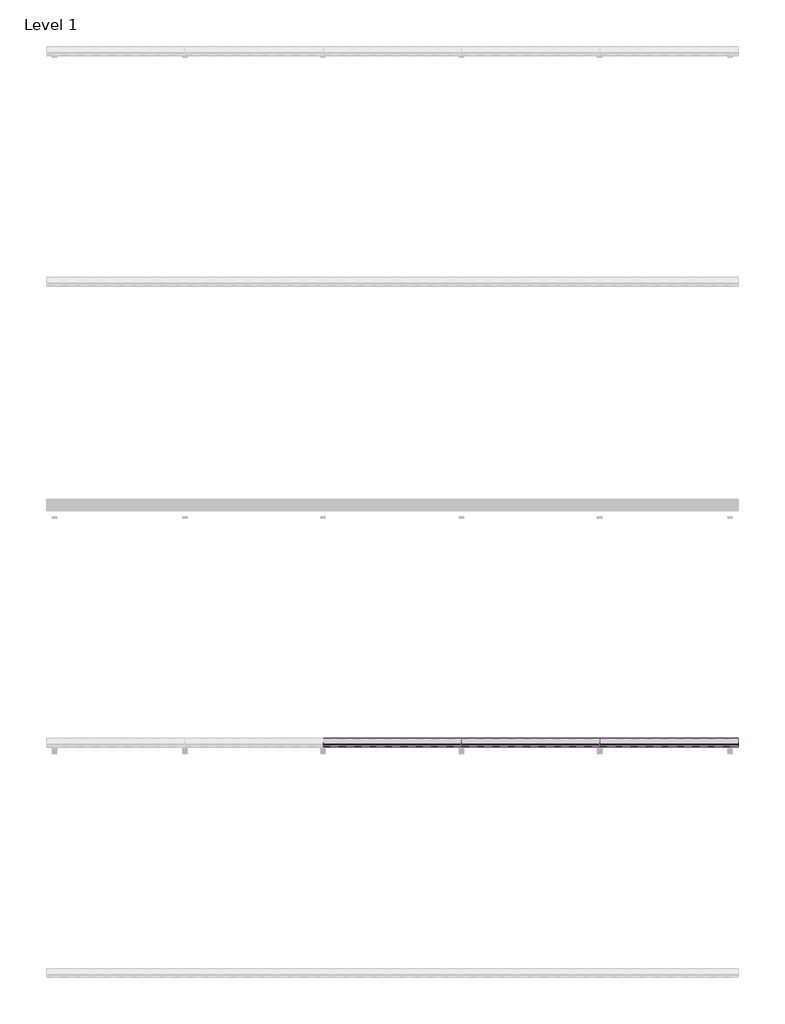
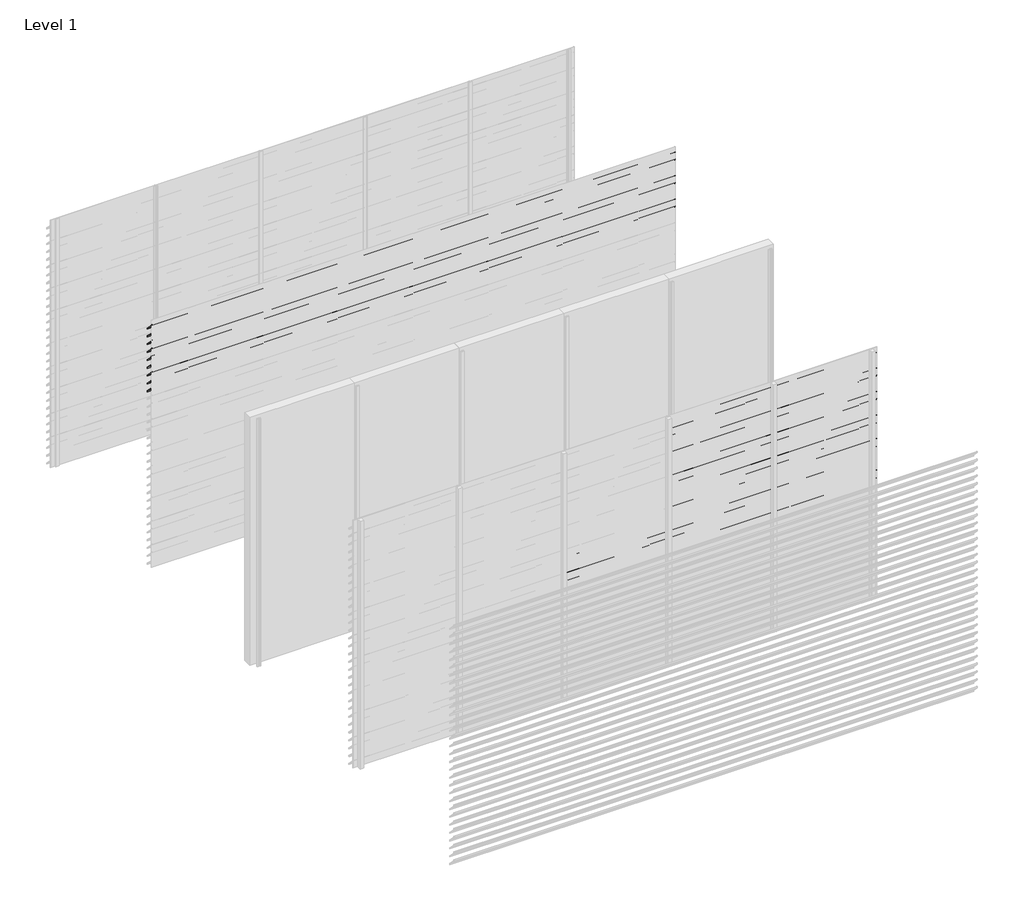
# One storey, part 13 of 24: 89 proxies.
"""IFC4 building model written with IfcOpenShell, lengths in millimetres."""

import ifcopenshell
import ifcopenshell.guid

model = None  # the IFC model being written
_history = None  # IfcOwnerHistory: only IFC2X3 demands one
_inside = {}  # id of a spatial element -> (the spatial element, [elements in it])
_under = {}  # id of a project, library or spatial element -> (it, [spatial elements below it])
_declared = {}  # id of a project -> (the project, [libraries it declares])
_typed = {}  # id of a type object -> (the type object, [elements of that type])
_made_of = {}  # id of a material, layer set ... -> (it, [elements and type objects made of it])


def new_model(schema):
    """Start an empty IFC model of exactly this schema.

    Asked for "IFC4X3", IfcOpenShell would pick the latest addendum, in which some entities
    have other attributes; the version numbers below select the first issue.
    IFC2X3 requires an IfcOwnerHistory on every rooted entity: one is made here for all.
    """
    global model, _history
    if schema == "IFC4X3":
        model = ifcopenshell.file(schema_version=(4, 3, 0, 0))
    else:
        model = ifcopenshell.file(schema=schema)
    _inside.clear()
    _under.clear()
    _declared.clear()
    _typed.clear()
    _made_of.clear()
    _history = None
    if model.schema == "IFC2X3":
        org = make("IfcOrganization", Name="unknown")
        user = make(
            "IfcPersonAndOrganization",
            ThePerson=make("IfcPerson", FamilyName="unknown"),
            TheOrganization=org,
        )
        app = make(
            "IfcApplication",
            ApplicationDeveloper=org,
            Version="unknown",
            ApplicationFullName="unknown",
            ApplicationIdentifier="unknown",
        )
        _history = make(
            "IfcOwnerHistory",
            OwningUser=user,
            OwningApplication=app,
            ChangeAction="ADDED",
            CreationDate=0,
        )
    return model


def make(cls, **values):
    """One entity of the class cls with the attributes given. An attribute that is None is left unset."""
    return model.create_entity(
        cls, **{name: value for name, value in values.items() if value is not None}
    )


def rooted(cls, **values):
    """An entity with a GlobalId (a new one), such as an element, a storey or a relation."""
    return make(cls, GlobalId=ifcopenshell.guid.new(), OwnerHistory=_history, **values)


def si_unit(unit_type, name, prefix=None):
    """IfcSIUnit, for example si_unit("LENGTHUNIT", "METRE", prefix="MILLI")."""
    return make("IfcSIUnit", UnitType=unit_type, Prefix=prefix, Name=name)


def assignment(units):
    """IfcUnitAssignment: the units of a project."""
    return None if units is None else make("IfcUnitAssignment", Units=units)


def point(xyz):
    """IfcCartesianPoint."""
    return None if xyz is None else make("IfcCartesianPoint", Coordinates=xyz)


def direction(xyz):
    """IfcDirection."""
    return None if xyz is None else make("IfcDirection", DirectionRatios=xyz)


def frame(location, z_axis=None, x_axis=None):
    """IfcAxis2Placement3D, a coordinate frame: its origin and axes. An axis left out is left unset."""
    return make(
        "IfcAxis2Placement3D",
        Location=point(location),
        Axis=direction(z_axis),
        RefDirection=direction(x_axis),
    )


def origin():
    """The frame at (0, 0, 0) with its axes left unset."""
    return frame((0.0, 0.0, 0.0))


def place(relative_to, where):
    """IfcLocalPlacement: puts the frame where relative to a parent placement (None: the world)."""
    return make(
        "IfcLocalPlacement", PlacementRelTo=relative_to, RelativePlacement=where
    )


def context(
    kind, dimensions, precision=None, world=None, true_north=None, identifier=None
):
    """IfcGeometricRepresentationContext, for example the 3D "Model" context."""
    return make(
        "IfcGeometricRepresentationContext",
        ContextIdentifier=identifier,
        ContextType=kind,
        CoordinateSpaceDimension=dimensions,
        Precision=precision,
        WorldCoordinateSystem=world,
        TrueNorth=true_north,
    )


def project(units=None, contexts=None):
    """IfcProject with its units and contexts."""
    return rooted(
        "IfcProject",
        Name="project",
        RepresentationContexts=contexts,
        UnitsInContext=assignment(units),
    )


def spatial(cls, under=None, at=None, **own):
    """A site, building, storey or space (cls), placed at a placement, below another one or the project."""
    s = rooted(cls, ObjectPlacement=at, **own)
    if under is not None:
        _under.setdefault(under.id(), (under, []))[1].append(s)
    return s


def polyline(points):
    """IfcPolyline through the points."""
    return make("IfcPolyline", Points=[point(p) for p in points])


def outline(outer, holes=None, kind="AREA"):
    """IfcArbitraryClosedProfileDef: a profile drawn as a closed curve; with holes, ...WithVoids."""
    if holes is None:
        return make("IfcArbitraryClosedProfileDef", ProfileType=kind, OuterCurve=outer)
    return make(
        "IfcArbitraryProfileDefWithVoids",
        ProfileType=kind,
        OuterCurve=outer,
        InnerCurves=holes,
    )


def extrude(swept, where, along, depth):
    """IfcExtrudedAreaSolid: the profile swept, set in the frame where, extruded along a direction by depth."""
    return make(
        "IfcExtrudedAreaSolid",
        SweptArea=swept,
        Position=where,
        ExtrudedDirection=direction(along),
        Depth=depth,
    )


def shape(context_of_items, identifier, shape_type, items):
    """IfcShapeRepresentation: the items that make up one representation, for example the "Body"."""
    return make(
        "IfcShapeRepresentation",
        ContextOfItems=context_of_items,
        RepresentationIdentifier=identifier,
        RepresentationType=shape_type,
        Items=items,
    )


def made_of(thing, what):
    """Note that an element or type object is made of a material, layer set ...; save() writes the relation."""
    if what is not None:
        _made_of.setdefault(what.id(), (what, []))[1].append(thing)
    return thing


def element(
    cls,
    number,
    at=None,
    inside=None,
    cuts=None,
    type_object=None,
    material=None,
    context=None,
    identifier="Body",
    shape_type=None,
    held_by="IfcProductDefinitionShape",
    body=None,
    shapes=None,
    **own,
):
    """One element of the class cls, such as IfcWall. Its Tag is "e" and its number.

    at: its placement. inside: the storey or other place that contains it. cuts: it is an
    opening in that element (IfcRelVoidsElement). A single representation is given by context,
    identifier, shape_type and body (its items); several are given by shapes. held_by: the class
    of the entity that holds the representations. save() writes the other relations.
    """
    e = rooted(cls, Tag="e%d" % number, ObjectPlacement=at, **own)
    if body is not None:
        shapes = [shape(context, identifier, shape_type, body)]
    if shapes is not None:
        e.Representation = make(held_by, Representations=shapes)
    if inside is not None:
        _inside.setdefault(inside.id(), (inside, []))[1].append(e)
    if cuts is not None:
        rooted(
            "IfcRelVoidsElement", RelatingBuildingElement=cuts, RelatedOpeningElement=e
        )
    if type_object is not None:
        _typed.setdefault(type_object.id(), (type_object, []))[1].append(e)
    return made_of(e, material)


def aggregate(whole, parts):
    """IfcRelAggregates: a whole, such as a stair, and the parts it consists of."""
    return rooted("IfcRelAggregates", RelatingObject=whole, RelatedObjects=parts)


def save(model, path):
    """Write the relations noted so far, then the file.

    IfcRelAggregates (storeys below a building ...), IfcRelContainedInSpatialStructure (elements
    in a storey), IfcRelDefinesByType, IfcRelAssociatesMaterial and IfcRelDeclares: one each for
    every whole, place, type object, material and project.
    """
    for whole, parts in _under.values():
        aggregate(whole, parts)
    for where, things in _inside.values():
        rooted(
            "IfcRelContainedInSpatialStructure",
            RelatedElements=things,
            RelatingStructure=where,
        )
    for kind, things in _typed.values():
        rooted("IfcRelDefinesByType", RelatedObjects=things, RelatingType=kind)
    for what, things in _made_of.values():
        rooted("IfcRelAssociatesMaterial", RelatedObjects=things, RelatingMaterial=what)
    for by, libraries in _declared.values():
        rooted("IfcRelDeclares", RelatingContext=by, RelatedDefinitions=libraries)
    model.write(path)


model = new_model("IFC4")

# Units and contexts
model_context = context("Model", 3, world=origin())
ifc_project = project(units=[si_unit("LENGTHUNIT", "METRE", prefix="MILLI")], contexts=[model_context])

# Site, building, storey
site = spatial("IfcSite", under=ifc_project)
building = spatial("IfcBuilding", under=site)
storey = spatial("IfcBuildingStorey", under=building, Name="Level 1", Elevation=0.0)

# Proxies
placement = place(None, origin())
element("IfcBuildingElementProxy", 1, Name="Wall Sweeps", at=placement, inside=storey, context=model_context, shape_type="SweptSolid", body=[
    extrude(outline(polyline([(-25920.8, 2842.9), (-25922.3, 2842.9), (-25922.3, 2855.1762333), (-25998.0, 2930.4561238), (-25998.0, 2945.0), (-25996.5, 2945.0), (-25996.5, 2931.0798905), (-25920.8, 2855.8), (-25920.8, 2842.9)])), frame((0.0, 0.0, 0.0), z_axis=(1.0, 0.0, 0.0), x_axis=(0.0, 1.0, 0.0)), (0.0, 0.0, 1.0), 6000.0),
])
element("IfcBuildingElementProxy", 2, Name="Wall Sweeps", at=placement, inside=storey, context=model_context, shape_type="SweptSolid", body=[
    extrude(outline(polyline([(-25920.8, 2747.9), (-25922.3, 2747.9), (-25922.3, 2760.1762333), (-25998.0, 2835.4561238), (-25998.0, 2850.0), (-25996.5, 2850.0), (-25996.5, 2836.0798905), (-25920.8, 2760.8), (-25920.8, 2747.9)])), frame((0.0, 0.0, 0.0), z_axis=(1.0, 0.0, 0.0), x_axis=(0.0, 1.0, 0.0)), (0.0, 0.0, 1.0), 6000.0),
])
element("IfcBuildingElementProxy", 3, Name="Wall Sweeps", at=placement, inside=storey, context=model_context, shape_type="SweptSolid", body=[
    extrude(outline(polyline([(-25920.8, 2652.9), (-25922.3, 2652.9), (-25922.3, 2665.1762333), (-25998.0, 2740.4561238), (-25998.0, 2755.0), (-25996.5, 2755.0), (-25996.5, 2741.0798905), (-25920.8, 2665.8), (-25920.8, 2652.9)])), frame((0.0, 0.0, 0.0), z_axis=(1.0, 0.0, 0.0), x_axis=(0.0, 1.0, 0.0)), (0.0, 0.0, 1.0), 6000.0),
])
element("IfcBuildingElementProxy", 4, Name="Wall Sweeps", at=placement, inside=storey, context=model_context, shape_type="SweptSolid", body=[
    extrude(outline(polyline([(-25920.8, 2557.9), (-25922.3, 2557.9), (-25922.3, 2570.1762333), (-25998.0, 2645.4561238), (-25998.0, 2660.0), (-25996.5, 2660.0), (-25996.5, 2646.0798905), (-25920.8, 2570.8), (-25920.8, 2557.9)])), frame((0.0, 0.0, 0.0), z_axis=(1.0, 0.0, 0.0), x_axis=(0.0, 1.0, 0.0)), (0.0, 0.0, 1.0), 6000.0),
])
element("IfcBuildingElementProxy", 5, Name="Wall Sweeps", at=placement, inside=storey, context=model_context, shape_type="SweptSolid", body=[
    extrude(outline(polyline([(-25920.8, 2462.9), (-25922.3, 2462.9), (-25922.3, 2475.1762333), (-25998.0, 2550.4561238), (-25998.0, 2565.0), (-25996.5, 2565.0), (-25996.5, 2551.0798905), (-25920.8, 2475.8), (-25920.8, 2462.9)])), frame((0.0, 0.0, 0.0), z_axis=(1.0, 0.0, 0.0), x_axis=(0.0, 1.0, 0.0)), (0.0, 0.0, 1.0), 6000.0),
])
element("IfcBuildingElementProxy", 6, Name="Wall Sweeps", at=placement, inside=storey, context=model_context, shape_type="SweptSolid", body=[
    extrude(outline(polyline([(-25920.8, 2367.9), (-25922.3, 2367.9), (-25922.3, 2380.1762333), (-25998.0, 2455.4561238), (-25998.0, 2470.0), (-25996.5, 2470.0), (-25996.5, 2456.0798905), (-25920.8, 2380.8), (-25920.8, 2367.9)])), frame((0.0, 0.0, 0.0), z_axis=(1.0, 0.0, 0.0), x_axis=(0.0, 1.0, 0.0)), (0.0, 0.0, 1.0), 6000.0),
])
element("IfcBuildingElementProxy", 7, Name="Wall Sweeps", at=placement, inside=storey, context=model_context, shape_type="SweptSolid", body=[
    extrude(outline(polyline([(-25920.8, 2272.9), (-25922.3, 2272.9), (-25922.3, 2285.1762333), (-25998.0, 2360.4561238), (-25998.0, 2375.0), (-25996.5, 2375.0), (-25996.5, 2361.0798905), (-25920.8, 2285.8), (-25920.8, 2272.9)])), frame((0.0, 0.0, 0.0), z_axis=(1.0, 0.0, 0.0), x_axis=(0.0, 1.0, 0.0)), (0.0, 0.0, 1.0), 6000.0),
])
element("IfcBuildingElementProxy", 8, Name="Wall Sweeps", at=placement, inside=storey, context=model_context, shape_type="SweptSolid", body=[
    extrude(outline(polyline([(-25920.8, 2177.9), (-25922.3, 2177.9), (-25922.3, 2190.1762333), (-25998.0, 2265.4561238), (-25998.0, 2280.0), (-25996.5, 2280.0), (-25996.5, 2266.0798905), (-25920.8, 2190.8), (-25920.8, 2177.9)])), frame((0.0, 0.0, 0.0), z_axis=(1.0, 0.0, 0.0), x_axis=(0.0, 1.0, 0.0)), (0.0, 0.0, 1.0), 6000.0),
])
element("IfcBuildingElementProxy", 9, Name="Wall Sweeps", at=placement, inside=storey, context=model_context, shape_type="SweptSolid", body=[
    extrude(outline(polyline([(-25920.8, 2082.9), (-25922.3, 2082.9), (-25922.3, 2095.1762333), (-25998.0, 2170.4561238), (-25998.0, 2185.0), (-25996.5, 2185.0), (-25996.5, 2171.0798905), (-25920.8, 2095.8), (-25920.8, 2082.9)])), frame((0.0, 0.0, 0.0), z_axis=(1.0, 0.0, 0.0), x_axis=(0.0, 1.0, 0.0)), (0.0, 0.0, 1.0), 6000.0),
])
element("IfcBuildingElementProxy", 10, Name="Wall Sweeps", at=placement, inside=storey, context=model_context, shape_type="SweptSolid", body=[
    extrude(outline(polyline([(-29920.8, 1607.9), (-29922.3, 1607.9), (-29922.3, 1620.1762333), (-29998.0, 1695.4561238), (-29998.0, 1710.0), (-29996.5, 1710.0), (-29996.5, 1696.0798905), (-29920.8, 1620.8), (-29920.8, 1607.9)])), frame((2400.0, 0.0, 0.0), z_axis=(1.0, 0.0, 0.0), x_axis=(0.0, 1.0, 0.0)), (0.0, 0.0, 1.0), 1200.0),
])
element("IfcBuildingElementProxy", 11, Name="Wall Sweeps", at=placement, inside=storey, context=model_context, shape_type="SweptSolid", body=[
    extrude(outline(polyline([(-29920.8, 1512.9), (-29922.3, 1512.9), (-29922.3, 1525.1762333), (-29998.0, 1600.4561238), (-29998.0, 1615.0), (-29996.5, 1615.0), (-29996.5, 1601.0798905), (-29920.8, 1525.8), (-29920.8, 1512.9)])), frame((2400.0, 0.0, 0.0), z_axis=(1.0, 0.0, 0.0), x_axis=(0.0, 1.0, 0.0)), (0.0, 0.0, 1.0), 1200.0),
])
element("IfcBuildingElementProxy", 12, Name="Wall Sweeps", at=placement, inside=storey, context=model_context, shape_type="SweptSolid", body=[
    extrude(outline(polyline([(-29920.8, 1417.9), (-29922.3, 1417.9), (-29922.3, 1430.1762333), (-29998.0, 1505.4561238), (-29998.0, 1520.0), (-29996.5, 1520.0), (-29996.5, 1506.0798905), (-29920.8, 1430.8), (-29920.8, 1417.9)])), frame((2400.0, 0.0, 0.0), z_axis=(1.0, 0.0, 0.0), x_axis=(0.0, 1.0, 0.0)), (0.0, 0.0, 1.0), 1200.0),
])
element("IfcBuildingElementProxy", 13, Name="Wall Sweeps", at=placement, inside=storey, context=model_context, shape_type="SweptSolid", body=[
    extrude(outline(polyline([(-29920.8, 1322.9), (-29922.3, 1322.9), (-29922.3, 1335.1762333), (-29998.0, 1410.4561238), (-29998.0, 1425.0), (-29996.5, 1425.0), (-29996.5, 1411.0798905), (-29920.8, 1335.8), (-29920.8, 1322.9)])), frame((2400.0, 0.0, 0.0), z_axis=(1.0, 0.0, 0.0), x_axis=(0.0, 1.0, 0.0)), (0.0, 0.0, 1.0), 1200.0),
])
element("IfcBuildingElementProxy", 14, Name="Wall Sweeps", at=placement, inside=storey, context=model_context, shape_type="SweptSolid", body=[
    extrude(outline(polyline([(-29920.8, 1227.9), (-29922.3, 1227.9), (-29922.3, 1240.1762333), (-29998.0, 1315.4561238), (-29998.0, 1330.0), (-29996.5, 1330.0), (-29996.5, 1316.0798905), (-29920.8, 1240.8), (-29920.8, 1227.9)])), frame((2400.0, 0.0, 0.0), z_axis=(1.0, 0.0, 0.0), x_axis=(0.0, 1.0, 0.0)), (0.0, 0.0, 1.0), 1200.0),
])
element("IfcBuildingElementProxy", 15, Name="Wall Sweeps", at=placement, inside=storey, context=model_context, shape_type="SweptSolid", body=[
    extrude(outline(polyline([(-29920.8, 1132.9), (-29922.3, 1132.9), (-29922.3, 1145.1762333), (-29998.0, 1220.4561238), (-29998.0, 1235.0), (-29996.5, 1235.0), (-29996.5, 1221.0798905), (-29920.8, 1145.8), (-29920.8, 1132.9)])), frame((2400.0, 0.0, 0.0), z_axis=(1.0, 0.0, 0.0), x_axis=(0.0, 1.0, 0.0)), (0.0, 0.0, 1.0), 1200.0),
])
element("IfcBuildingElementProxy", 16, Name="Wall Sweeps", at=placement, inside=storey, context=model_context, shape_type="SweptSolid", body=[
    extrude(outline(polyline([(-29920.8, 1037.9), (-29922.3, 1037.9), (-29922.3, 1050.1762333), (-29998.0, 1125.4561238), (-29998.0, 1140.0), (-29996.5, 1140.0), (-29996.5, 1126.0798905), (-29920.8, 1050.8), (-29920.8, 1037.9)])), frame((2400.0, 0.0, 0.0), z_axis=(1.0, 0.0, 0.0), x_axis=(0.0, 1.0, 0.0)), (0.0, 0.0, 1.0), 1200.0),
])
element("IfcBuildingElementProxy", 17, Name="Wall Sweeps", at=placement, inside=storey, context=model_context, shape_type="SweptSolid", body=[
    extrude(outline(polyline([(-29920.8, 942.9), (-29922.3, 942.9), (-29922.3, 955.1762333), (-29998.0, 1030.4561238), (-29998.0, 1045.0), (-29996.5, 1045.0), (-29996.5, 1031.0798905), (-29920.8, 955.8), (-29920.8, 942.9)])), frame((2400.0, 0.0, 0.0), z_axis=(1.0, 0.0, 0.0), x_axis=(0.0, 1.0, 0.0)), (0.0, 0.0, 1.0), 1200.0),
])
element("IfcBuildingElementProxy", 18, Name="Wall Sweeps", at=placement, inside=storey, context=model_context, shape_type="SweptSolid", body=[
    extrude(outline(polyline([(-29920.8, 847.9), (-29922.3, 847.9), (-29922.3, 860.1762333), (-29998.0, 935.4561238), (-29998.0, 950.0), (-29996.5, 950.0), (-29996.5, 936.0798905), (-29920.8, 860.8), (-29920.8, 847.9)])), frame((2400.0, 0.0, 0.0), z_axis=(1.0, 0.0, 0.0), x_axis=(0.0, 1.0, 0.0)), (0.0, 0.0, 1.0), 1200.0),
])
element("IfcBuildingElementProxy", 19, Name="Wall Sweeps", at=placement, inside=storey, context=model_context, shape_type="SweptSolid", body=[
    extrude(outline(polyline([(-29920.8, 752.9), (-29922.3, 752.9), (-29922.3, 765.1762333), (-29998.0, 840.4561238), (-29998.0, 855.0), (-29996.5, 855.0), (-29996.5, 841.0798905), (-29920.8, 765.8), (-29920.8, 752.9)])), frame((2400.0, 0.0, 0.0), z_axis=(1.0, 0.0, 0.0), x_axis=(0.0, 1.0, 0.0)), (0.0, 0.0, 1.0), 1200.0),
])
element("IfcBuildingElementProxy", 20, Name="Wall Sweeps", at=placement, inside=storey, context=model_context, shape_type="SweptSolid", body=[
    extrude(outline(polyline([(-29920.8, 657.9), (-29922.3, 657.9), (-29922.3, 670.1762333), (-29998.0, 745.4561238), (-29998.0, 760.0), (-29996.5, 760.0), (-29996.5, 746.0798905), (-29920.8, 670.8), (-29920.8, 657.9)])), frame((2400.0, 0.0, 0.0), z_axis=(1.0, 0.0, 0.0), x_axis=(0.0, 1.0, 0.0)), (0.0, 0.0, 1.0), 1200.0),
])
element("IfcBuildingElementProxy", 21, Name="Wall Sweeps", at=placement, inside=storey, context=model_context, shape_type="SweptSolid", body=[
    extrude(outline(polyline([(-29920.8, 562.9), (-29922.3, 562.9), (-29922.3, 575.1762333), (-29998.0, 650.4561238), (-29998.0, 665.0), (-29996.5, 665.0), (-29996.5, 651.0798905), (-29920.8, 575.8), (-29920.8, 562.9)])), frame((2400.0, 0.0, 0.0), z_axis=(1.0, 0.0, 0.0), x_axis=(0.0, 1.0, 0.0)), (0.0, 0.0, 1.0), 1200.0),
])
element("IfcBuildingElementProxy", 22, Name="Wall Sweeps", at=placement, inside=storey, context=model_context, shape_type="SweptSolid", body=[
    extrude(outline(polyline([(-29920.8, 467.9), (-29922.3, 467.9), (-29922.3, 480.1762333), (-29998.0, 555.4561238), (-29998.0, 570.0), (-29996.5, 570.0), (-29996.5, 556.0798905), (-29920.8, 480.8), (-29920.8, 467.9)])), frame((2400.0, 0.0, 0.0), z_axis=(1.0, 0.0, 0.0), x_axis=(0.0, 1.0, 0.0)), (0.0, 0.0, 1.0), 1200.0),
])
element("IfcBuildingElementProxy", 23, Name="Wall Sweeps", at=placement, inside=storey, context=model_context, shape_type="SweptSolid", body=[
    extrude(outline(polyline([(-29920.8, 372.9), (-29922.3, 372.9), (-29922.3, 385.1762333), (-29998.0, 460.4561238), (-29998.0, 475.0), (-29996.5, 475.0), (-29996.5, 461.0798905), (-29920.8, 385.8), (-29920.8, 372.9)])), frame((2400.0, 0.0, 0.0), z_axis=(1.0, 0.0, 0.0), x_axis=(0.0, 1.0, 0.0)), (0.0, 0.0, 1.0), 1200.0),
])
element("IfcBuildingElementProxy", 24, Name="Wall Sweeps", at=placement, inside=storey, context=model_context, shape_type="SweptSolid", body=[
    extrude(outline(polyline([(-29920.8, 277.9), (-29922.3, 277.9), (-29922.3, 290.1762333), (-29998.0, 365.4561238), (-29998.0, 380.0), (-29996.5, 380.0), (-29996.5, 366.0798905), (-29920.8, 290.8), (-29920.8, 277.9)])), frame((2400.0, 0.0, 0.0), z_axis=(1.0, 0.0, 0.0), x_axis=(0.0, 1.0, 0.0)), (0.0, 0.0, 1.0), 1200.0),
])
element("IfcBuildingElementProxy", 25, Name="Wall Sweeps", at=placement, inside=storey, context=model_context, shape_type="SweptSolid", body=[
    extrude(outline(polyline([(-29920.8, 182.9), (-29922.3, 182.9), (-29922.3, 195.1762333), (-29998.0, 270.4561238), (-29998.0, 285.0), (-29996.5, 285.0), (-29996.5, 271.0798905), (-29920.8, 195.8), (-29920.8, 182.9)])), frame((2400.0, 0.0, 0.0), z_axis=(1.0, 0.0, 0.0), x_axis=(0.0, 1.0, 0.0)), (0.0, 0.0, 1.0), 1200.0),
])
element("IfcBuildingElementProxy", 26, Name="Wall Sweeps", at=placement, inside=storey, context=model_context, shape_type="SweptSolid", body=[
    extrude(outline(polyline([(-29920.8, 87.9), (-29922.3, 87.9), (-29922.3, 100.1762333), (-29998.0, 175.4561238), (-29998.0, 190.0), (-29996.5, 190.0), (-29996.5, 176.0798905), (-29920.8, 100.8), (-29920.8, 87.9)])), frame((2400.0, 0.0, 0.0), z_axis=(1.0, 0.0, 0.0), x_axis=(0.0, 1.0, 0.0)), (0.0, 0.0, 1.0), 1200.0),
])
element("IfcBuildingElementProxy", 27, Name="Wall Sweeps", at=placement, inside=storey, context=model_context, shape_type="SweptSolid", body=[
    extrude(outline(polyline([(-29920.8, -7.1), (-29922.3, -7.1), (-29922.3, 5.1762333), (-29998.0, 80.4561238), (-29998.0, 95.0), (-29996.5, 95.0), (-29996.5, 81.0798905), (-29920.8, 5.8), (-29920.8, -7.1)])), frame((2400.0, 0.0, 0.0), z_axis=(1.0, 0.0, 0.0), x_axis=(0.0, 1.0, 0.0)), (0.0, 0.0, 1.0), 1200.0),
])
element("IfcBuildingElementProxy", 28, Name="Wall Sweeps", at=placement, inside=storey, context=model_context, shape_type="SweptSolid", body=[
    extrude(outline(polyline([(-29920.8, 2842.9), (-29922.3, 2842.9), (-29922.3, 2855.1762333), (-29998.0, 2930.4561238), (-29998.0, 2945.0), (-29996.5, 2945.0), (-29996.5, 2931.0798905), (-29920.8, 2855.8), (-29920.8, 2842.9)])), frame((3600.0, 0.0, 0.0), z_axis=(1.0, 0.0, 0.0), x_axis=(0.0, 1.0, 0.0)), (0.0, 0.0, 1.0), 1200.0),
])
element("IfcBuildingElementProxy", 29, Name="Wall Sweeps", at=placement, inside=storey, context=model_context, shape_type="SweptSolid", body=[
    extrude(outline(polyline([(-29920.8, 2747.9), (-29922.3, 2747.9), (-29922.3, 2760.1762333), (-29998.0, 2835.4561238), (-29998.0, 2850.0), (-29996.5, 2850.0), (-29996.5, 2836.0798905), (-29920.8, 2760.8), (-29920.8, 2747.9)])), frame((3600.0, 0.0, 0.0), z_axis=(1.0, 0.0, 0.0), x_axis=(0.0, 1.0, 0.0)), (0.0, 0.0, 1.0), 1200.0),
])
element("IfcBuildingElementProxy", 30, Name="Wall Sweeps", at=placement, inside=storey, context=model_context, shape_type="SweptSolid", body=[
    extrude(outline(polyline([(-29920.8, 2652.9), (-29922.3, 2652.9), (-29922.3, 2665.1762333), (-29998.0, 2740.4561238), (-29998.0, 2755.0), (-29996.5, 2755.0), (-29996.5, 2741.0798905), (-29920.8, 2665.8), (-29920.8, 2652.9)])), frame((3600.0, 0.0, 0.0), z_axis=(1.0, 0.0, 0.0), x_axis=(0.0, 1.0, 0.0)), (0.0, 0.0, 1.0), 1200.0),
])
element("IfcBuildingElementProxy", 31, Name="Wall Sweeps", at=placement, inside=storey, context=model_context, shape_type="SweptSolid", body=[
    extrude(outline(polyline([(-29920.8, 2557.9), (-29922.3, 2557.9), (-29922.3, 2570.1762333), (-29998.0, 2645.4561238), (-29998.0, 2660.0), (-29996.5, 2660.0), (-29996.5, 2646.0798905), (-29920.8, 2570.8), (-29920.8, 2557.9)])), frame((3600.0, 0.0, 0.0), z_axis=(1.0, 0.0, 0.0), x_axis=(0.0, 1.0, 0.0)), (0.0, 0.0, 1.0), 1200.0),
])
element("IfcBuildingElementProxy", 32, Name="Wall Sweeps", at=placement, inside=storey, context=model_context, shape_type="SweptSolid", body=[
    extrude(outline(polyline([(-29920.8, 2462.9), (-29922.3, 2462.9), (-29922.3, 2475.1762333), (-29998.0, 2550.4561238), (-29998.0, 2565.0), (-29996.5, 2565.0), (-29996.5, 2551.0798905), (-29920.8, 2475.8), (-29920.8, 2462.9)])), frame((3600.0, 0.0, 0.0), z_axis=(1.0, 0.0, 0.0), x_axis=(0.0, 1.0, 0.0)), (0.0, 0.0, 1.0), 1200.0),
])
element("IfcBuildingElementProxy", 33, Name="Wall Sweeps", at=placement, inside=storey, context=model_context, shape_type="SweptSolid", body=[
    extrude(outline(polyline([(-29920.8, 2367.9), (-29922.3, 2367.9), (-29922.3, 2380.1762333), (-29998.0, 2455.4561238), (-29998.0, 2470.0), (-29996.5, 2470.0), (-29996.5, 2456.0798905), (-29920.8, 2380.8), (-29920.8, 2367.9)])), frame((3600.0, 0.0, 0.0), z_axis=(1.0, 0.0, 0.0), x_axis=(0.0, 1.0, 0.0)), (0.0, 0.0, 1.0), 1200.0),
])
element("IfcBuildingElementProxy", 34, Name="Wall Sweeps", at=placement, inside=storey, context=model_context, shape_type="SweptSolid", body=[
    extrude(outline(polyline([(-29920.8, 2272.9), (-29922.3, 2272.9), (-29922.3, 2285.1762333), (-29998.0, 2360.4561238), (-29998.0, 2375.0), (-29996.5, 2375.0), (-29996.5, 2361.0798905), (-29920.8, 2285.8), (-29920.8, 2272.9)])), frame((3600.0, 0.0, 0.0), z_axis=(1.0, 0.0, 0.0), x_axis=(0.0, 1.0, 0.0)), (0.0, 0.0, 1.0), 1200.0),
])
element("IfcBuildingElementProxy", 35, Name="Wall Sweeps", at=placement, inside=storey, context=model_context, shape_type="SweptSolid", body=[
    extrude(outline(polyline([(-29920.8, 2177.9), (-29922.3, 2177.9), (-29922.3, 2190.1762333), (-29998.0, 2265.4561238), (-29998.0, 2280.0), (-29996.5, 2280.0), (-29996.5, 2266.0798905), (-29920.8, 2190.8), (-29920.8, 2177.9)])), frame((3600.0, 0.0, 0.0), z_axis=(1.0, 0.0, 0.0), x_axis=(0.0, 1.0, 0.0)), (0.0, 0.0, 1.0), 1200.0),
])
element("IfcBuildingElementProxy", 36, Name="Wall Sweeps", at=placement, inside=storey, context=model_context, shape_type="SweptSolid", body=[
    extrude(outline(polyline([(-29920.8, 2082.9), (-29922.3, 2082.9), (-29922.3, 2095.1762333), (-29998.0, 2170.4561238), (-29998.0, 2185.0), (-29996.5, 2185.0), (-29996.5, 2171.0798905), (-29920.8, 2095.8), (-29920.8, 2082.9)])), frame((3600.0, 0.0, 0.0), z_axis=(1.0, 0.0, 0.0), x_axis=(0.0, 1.0, 0.0)), (0.0, 0.0, 1.0), 1200.0),
])
element("IfcBuildingElementProxy", 37, Name="Wall Sweeps", at=placement, inside=storey, context=model_context, shape_type="SweptSolid", body=[
    extrude(outline(polyline([(-29920.8, 1987.9), (-29922.3, 1987.9), (-29922.3, 2000.1762333), (-29998.0, 2075.4561238), (-29998.0, 2090.0), (-29996.5, 2090.0), (-29996.5, 2076.0798905), (-29920.8, 2000.8), (-29920.8, 1987.9)])), frame((3600.0, 0.0, 0.0), z_axis=(1.0, 0.0, 0.0), x_axis=(0.0, 1.0, 0.0)), (0.0, 0.0, 1.0), 1200.0),
])
element("IfcBuildingElementProxy", 38, Name="Wall Sweeps", at=placement, inside=storey, context=model_context, shape_type="SweptSolid", body=[
    extrude(outline(polyline([(-29920.8, 1892.9), (-29922.3, 1892.9), (-29922.3, 1905.1762333), (-29998.0, 1980.4561238), (-29998.0, 1995.0), (-29996.5, 1995.0), (-29996.5, 1981.0798905), (-29920.8, 1905.8), (-29920.8, 1892.9)])), frame((3600.0, 0.0, 0.0), z_axis=(1.0, 0.0, 0.0), x_axis=(0.0, 1.0, 0.0)), (0.0, 0.0, 1.0), 1200.0),
])
element("IfcBuildingElementProxy", 39, Name="Wall Sweeps", at=placement, inside=storey, context=model_context, shape_type="SweptSolid", body=[
    extrude(outline(polyline([(-29920.8, 1797.9), (-29922.3, 1797.9), (-29922.3, 1810.1762333), (-29998.0, 1885.4561238), (-29998.0, 1900.0), (-29996.5, 1900.0), (-29996.5, 1886.0798905), (-29920.8, 1810.8), (-29920.8, 1797.9)])), frame((3600.0, 0.0, 0.0), z_axis=(1.0, 0.0, 0.0), x_axis=(0.0, 1.0, 0.0)), (0.0, 0.0, 1.0), 1200.0),
])
element("IfcBuildingElementProxy", 40, Name="Wall Sweeps", at=placement, inside=storey, context=model_context, shape_type="SweptSolid", body=[
    extrude(outline(polyline([(-29920.8, 1702.9), (-29922.3, 1702.9), (-29922.3, 1715.1762333), (-29998.0, 1790.4561238), (-29998.0, 1805.0), (-29996.5, 1805.0), (-29996.5, 1791.0798905), (-29920.8, 1715.8), (-29920.8, 1702.9)])), frame((3600.0, 0.0, 0.0), z_axis=(1.0, 0.0, 0.0), x_axis=(0.0, 1.0, 0.0)), (0.0, 0.0, 1.0), 1200.0),
])
element("IfcBuildingElementProxy", 41, Name="Wall Sweeps", at=placement, inside=storey, context=model_context, shape_type="SweptSolid", body=[
    extrude(outline(polyline([(-29920.8, 1607.9), (-29922.3, 1607.9), (-29922.3, 1620.1762333), (-29998.0, 1695.4561238), (-29998.0, 1710.0), (-29996.5, 1710.0), (-29996.5, 1696.0798905), (-29920.8, 1620.8), (-29920.8, 1607.9)])), frame((3600.0, 0.0, 0.0), z_axis=(1.0, 0.0, 0.0), x_axis=(0.0, 1.0, 0.0)), (0.0, 0.0, 1.0), 1200.0),
])
element("IfcBuildingElementProxy", 42, Name="Wall Sweeps", at=placement, inside=storey, context=model_context, shape_type="SweptSolid", body=[
    extrude(outline(polyline([(-29920.8, 1512.9), (-29922.3, 1512.9), (-29922.3, 1525.1762333), (-29998.0, 1600.4561238), (-29998.0, 1615.0), (-29996.5, 1615.0), (-29996.5, 1601.0798905), (-29920.8, 1525.8), (-29920.8, 1512.9)])), frame((3600.0, 0.0, 0.0), z_axis=(1.0, 0.0, 0.0), x_axis=(0.0, 1.0, 0.0)), (0.0, 0.0, 1.0), 1200.0),
])
element("IfcBuildingElementProxy", 43, Name="Wall Sweeps", at=placement, inside=storey, context=model_context, shape_type="SweptSolid", body=[
    extrude(outline(polyline([(-29920.8, 1417.9), (-29922.3, 1417.9), (-29922.3, 1430.1762333), (-29998.0, 1505.4561238), (-29998.0, 1520.0), (-29996.5, 1520.0), (-29996.5, 1506.0798905), (-29920.8, 1430.8), (-29920.8, 1417.9)])), frame((3600.0, 0.0, 0.0), z_axis=(1.0, 0.0, 0.0), x_axis=(0.0, 1.0, 0.0)), (0.0, 0.0, 1.0), 1200.0),
])
element("IfcBuildingElementProxy", 44, Name="Wall Sweeps", at=placement, inside=storey, context=model_context, shape_type="SweptSolid", body=[
    extrude(outline(polyline([(-29920.8, 1322.9), (-29922.3, 1322.9), (-29922.3, 1335.1762333), (-29998.0, 1410.4561238), (-29998.0, 1425.0), (-29996.5, 1425.0), (-29996.5, 1411.0798905), (-29920.8, 1335.8), (-29920.8, 1322.9)])), frame((3600.0, 0.0, 0.0), z_axis=(1.0, 0.0, 0.0), x_axis=(0.0, 1.0, 0.0)), (0.0, 0.0, 1.0), 1200.0),
])
element("IfcBuildingElementProxy", 45, Name="Wall Sweeps", at=placement, inside=storey, context=model_context, shape_type="SweptSolid", body=[
    extrude(outline(polyline([(-29920.8, 1227.9), (-29922.3, 1227.9), (-29922.3, 1240.1762333), (-29998.0, 1315.4561238), (-29998.0, 1330.0), (-29996.5, 1330.0), (-29996.5, 1316.0798905), (-29920.8, 1240.8), (-29920.8, 1227.9)])), frame((3600.0, 0.0, 0.0), z_axis=(1.0, 0.0, 0.0), x_axis=(0.0, 1.0, 0.0)), (0.0, 0.0, 1.0), 1200.0),
])
element("IfcBuildingElementProxy", 46, Name="Wall Sweeps", at=placement, inside=storey, context=model_context, shape_type="SweptSolid", body=[
    extrude(outline(polyline([(-29920.8, 1132.9), (-29922.3, 1132.9), (-29922.3, 1145.1762333), (-29998.0, 1220.4561238), (-29998.0, 1235.0), (-29996.5, 1235.0), (-29996.5, 1221.0798905), (-29920.8, 1145.8), (-29920.8, 1132.9)])), frame((3600.0, 0.0, 0.0), z_axis=(1.0, 0.0, 0.0), x_axis=(0.0, 1.0, 0.0)), (0.0, 0.0, 1.0), 1200.0),
])
element("IfcBuildingElementProxy", 47, Name="Wall Sweeps", at=placement, inside=storey, context=model_context, shape_type="SweptSolid", body=[
    extrude(outline(polyline([(-29920.8, 1037.9), (-29922.3, 1037.9), (-29922.3, 1050.1762333), (-29998.0, 1125.4561238), (-29998.0, 1140.0), (-29996.5, 1140.0), (-29996.5, 1126.0798905), (-29920.8, 1050.8), (-29920.8, 1037.9)])), frame((3600.0, 0.0, 0.0), z_axis=(1.0, 0.0, 0.0), x_axis=(0.0, 1.0, 0.0)), (0.0, 0.0, 1.0), 1200.0),
])
element("IfcBuildingElementProxy", 48, Name="Wall Sweeps", at=placement, inside=storey, context=model_context, shape_type="SweptSolid", body=[
    extrude(outline(polyline([(-29920.8, 942.9), (-29922.3, 942.9), (-29922.3, 955.1762333), (-29998.0, 1030.4561238), (-29998.0, 1045.0), (-29996.5, 1045.0), (-29996.5, 1031.0798905), (-29920.8, 955.8), (-29920.8, 942.9)])), frame((3600.0, 0.0, 0.0), z_axis=(1.0, 0.0, 0.0), x_axis=(0.0, 1.0, 0.0)), (0.0, 0.0, 1.0), 1200.0),
])
element("IfcBuildingElementProxy", 49, Name="Wall Sweeps", at=placement, inside=storey, context=model_context, shape_type="SweptSolid", body=[
    extrude(outline(polyline([(-29920.8, 847.9), (-29922.3, 847.9), (-29922.3, 860.1762333), (-29998.0, 935.4561238), (-29998.0, 950.0), (-29996.5, 950.0), (-29996.5, 936.0798905), (-29920.8, 860.8), (-29920.8, 847.9)])), frame((3600.0, 0.0, 0.0), z_axis=(1.0, 0.0, 0.0), x_axis=(0.0, 1.0, 0.0)), (0.0, 0.0, 1.0), 1200.0),
])
element("IfcBuildingElementProxy", 50, Name="Wall Sweeps", at=placement, inside=storey, context=model_context, shape_type="SweptSolid", body=[
    extrude(outline(polyline([(-29920.8, 752.9), (-29922.3, 752.9), (-29922.3, 765.1762333), (-29998.0, 840.4561238), (-29998.0, 855.0), (-29996.5, 855.0), (-29996.5, 841.0798905), (-29920.8, 765.8), (-29920.8, 752.9)])), frame((3600.0, 0.0, 0.0), z_axis=(1.0, 0.0, 0.0), x_axis=(0.0, 1.0, 0.0)), (0.0, 0.0, 1.0), 1200.0),
])
element("IfcBuildingElementProxy", 51, Name="Wall Sweeps", at=placement, inside=storey, context=model_context, shape_type="SweptSolid", body=[
    extrude(outline(polyline([(-29920.8, 657.9), (-29922.3, 657.9), (-29922.3, 670.1762333), (-29998.0, 745.4561238), (-29998.0, 760.0), (-29996.5, 760.0), (-29996.5, 746.0798905), (-29920.8, 670.8), (-29920.8, 657.9)])), frame((3600.0, 0.0, 0.0), z_axis=(1.0, 0.0, 0.0), x_axis=(0.0, 1.0, 0.0)), (0.0, 0.0, 1.0), 1200.0),
])
element("IfcBuildingElementProxy", 52, Name="Wall Sweeps", at=placement, inside=storey, context=model_context, shape_type="SweptSolid", body=[
    extrude(outline(polyline([(-29920.8, 562.9), (-29922.3, 562.9), (-29922.3, 575.1762333), (-29998.0, 650.4561238), (-29998.0, 665.0), (-29996.5, 665.0), (-29996.5, 651.0798905), (-29920.8, 575.8), (-29920.8, 562.9)])), frame((3600.0, 0.0, 0.0), z_axis=(1.0, 0.0, 0.0), x_axis=(0.0, 1.0, 0.0)), (0.0, 0.0, 1.0), 1200.0),
])
element("IfcBuildingElementProxy", 53, Name="Wall Sweeps", at=placement, inside=storey, context=model_context, shape_type="SweptSolid", body=[
    extrude(outline(polyline([(-29920.8, 467.9), (-29922.3, 467.9), (-29922.3, 480.1762333), (-29998.0, 555.4561238), (-29998.0, 570.0), (-29996.5, 570.0), (-29996.5, 556.0798905), (-29920.8, 480.8), (-29920.8, 467.9)])), frame((3600.0, 0.0, 0.0), z_axis=(1.0, 0.0, 0.0), x_axis=(0.0, 1.0, 0.0)), (0.0, 0.0, 1.0), 1200.0),
])
element("IfcBuildingElementProxy", 54, Name="Wall Sweeps", at=placement, inside=storey, context=model_context, shape_type="SweptSolid", body=[
    extrude(outline(polyline([(-29920.8, 372.9), (-29922.3, 372.9), (-29922.3, 385.1762333), (-29998.0, 460.4561238), (-29998.0, 475.0), (-29996.5, 475.0), (-29996.5, 461.0798905), (-29920.8, 385.8), (-29920.8, 372.9)])), frame((3600.0, 0.0, 0.0), z_axis=(1.0, 0.0, 0.0), x_axis=(0.0, 1.0, 0.0)), (0.0, 0.0, 1.0), 1200.0),
])
element("IfcBuildingElementProxy", 55, Name="Wall Sweeps", at=placement, inside=storey, context=model_context, shape_type="SweptSolid", body=[
    extrude(outline(polyline([(-29920.8, 277.9), (-29922.3, 277.9), (-29922.3, 290.1762333), (-29998.0, 365.4561238), (-29998.0, 380.0), (-29996.5, 380.0), (-29996.5, 366.0798905), (-29920.8, 290.8), (-29920.8, 277.9)])), frame((3600.0, 0.0, 0.0), z_axis=(1.0, 0.0, 0.0), x_axis=(0.0, 1.0, 0.0)), (0.0, 0.0, 1.0), 1200.0),
])
element("IfcBuildingElementProxy", 56, Name="Wall Sweeps", at=placement, inside=storey, context=model_context, shape_type="SweptSolid", body=[
    extrude(outline(polyline([(-29920.8, 182.9), (-29922.3, 182.9), (-29922.3, 195.1762333), (-29998.0, 270.4561238), (-29998.0, 285.0), (-29996.5, 285.0), (-29996.5, 271.0798905), (-29920.8, 195.8), (-29920.8, 182.9)])), frame((3600.0, 0.0, 0.0), z_axis=(1.0, 0.0, 0.0), x_axis=(0.0, 1.0, 0.0)), (0.0, 0.0, 1.0), 1200.0),
])
element("IfcBuildingElementProxy", 57, Name="Wall Sweeps", at=placement, inside=storey, context=model_context, shape_type="SweptSolid", body=[
    extrude(outline(polyline([(-29920.8, 87.9), (-29922.3, 87.9), (-29922.3, 100.1762333), (-29998.0, 175.4561238), (-29998.0, 190.0), (-29996.5, 190.0), (-29996.5, 176.0798905), (-29920.8, 100.8), (-29920.8, 87.9)])), frame((3600.0, 0.0, 0.0), z_axis=(1.0, 0.0, 0.0), x_axis=(0.0, 1.0, 0.0)), (0.0, 0.0, 1.0), 1200.0),
])
element("IfcBuildingElementProxy", 58, Name="Wall Sweeps", at=placement, inside=storey, context=model_context, shape_type="SweptSolid", body=[
    extrude(outline(polyline([(-29920.8, -7.1), (-29922.3, -7.1), (-29922.3, 5.1762333), (-29998.0, 80.4561238), (-29998.0, 95.0), (-29996.5, 95.0), (-29996.5, 81.0798905), (-29920.8, 5.8), (-29920.8, -7.1)])), frame((3600.0, 0.0, 0.0), z_axis=(1.0, 0.0, 0.0), x_axis=(0.0, 1.0, 0.0)), (0.0, 0.0, 1.0), 1200.0),
])
element("IfcBuildingElementProxy", 59, Name="Wall Sweeps", at=placement, inside=storey, context=model_context, shape_type="SweptSolid", body=[
    extrude(outline(polyline([(-29920.8, 2842.9), (-29922.3, 2842.9), (-29922.3, 2855.1762333), (-29998.0, 2930.4561238), (-29998.0, 2945.0), (-29996.5, 2945.0), (-29996.5, 2931.0798905), (-29920.8, 2855.8), (-29920.8, 2842.9)])), frame((4800.0, 0.0, 0.0), z_axis=(1.0, 0.0, 0.0), x_axis=(0.0, 1.0, 0.0)), (0.0, 0.0, 1.0), 1200.0),
])
element("IfcBuildingElementProxy", 60, Name="Wall Sweeps", at=placement, inside=storey, context=model_context, shape_type="SweptSolid", body=[
    extrude(outline(polyline([(-29920.8, 2747.9), (-29922.3, 2747.9), (-29922.3, 2760.1762333), (-29998.0, 2835.4561238), (-29998.0, 2850.0), (-29996.5, 2850.0), (-29996.5, 2836.0798905), (-29920.8, 2760.8), (-29920.8, 2747.9)])), frame((4800.0, 0.0, 0.0), z_axis=(1.0, 0.0, 0.0), x_axis=(0.0, 1.0, 0.0)), (0.0, 0.0, 1.0), 1200.0),
])
element("IfcBuildingElementProxy", 61, Name="Wall Sweeps", at=placement, inside=storey, context=model_context, shape_type="SweptSolid", body=[
    extrude(outline(polyline([(-29920.8, 2652.9), (-29922.3, 2652.9), (-29922.3, 2665.1762333), (-29998.0, 2740.4561238), (-29998.0, 2755.0), (-29996.5, 2755.0), (-29996.5, 2741.0798905), (-29920.8, 2665.8), (-29920.8, 2652.9)])), frame((4800.0, 0.0, 0.0), z_axis=(1.0, 0.0, 0.0), x_axis=(0.0, 1.0, 0.0)), (0.0, 0.0, 1.0), 1200.0),
])
element("IfcBuildingElementProxy", 62, Name="Wall Sweeps", at=placement, inside=storey, context=model_context, shape_type="SweptSolid", body=[
    extrude(outline(polyline([(-29920.8, 2557.9), (-29922.3, 2557.9), (-29922.3, 2570.1762333), (-29998.0, 2645.4561238), (-29998.0, 2660.0), (-29996.5, 2660.0), (-29996.5, 2646.0798905), (-29920.8, 2570.8), (-29920.8, 2557.9)])), frame((4800.0, 0.0, 0.0), z_axis=(1.0, 0.0, 0.0), x_axis=(0.0, 1.0, 0.0)), (0.0, 0.0, 1.0), 1200.0),
])
element("IfcBuildingElementProxy", 63, Name="Wall Sweeps", at=placement, inside=storey, context=model_context, shape_type="SweptSolid", body=[
    extrude(outline(polyline([(-29920.8, 2462.9), (-29922.3, 2462.9), (-29922.3, 2475.1762333), (-29998.0, 2550.4561238), (-29998.0, 2565.0), (-29996.5, 2565.0), (-29996.5, 2551.0798905), (-29920.8, 2475.8), (-29920.8, 2462.9)])), frame((4800.0, 0.0, 0.0), z_axis=(1.0, 0.0, 0.0), x_axis=(0.0, 1.0, 0.0)), (0.0, 0.0, 1.0), 1200.0),
])
element("IfcBuildingElementProxy", 64, Name="Wall Sweeps", at=placement, inside=storey, context=model_context, shape_type="SweptSolid", body=[
    extrude(outline(polyline([(-29920.8, 2367.9), (-29922.3, 2367.9), (-29922.3, 2380.1762333), (-29998.0, 2455.4561238), (-29998.0, 2470.0), (-29996.5, 2470.0), (-29996.5, 2456.0798905), (-29920.8, 2380.8), (-29920.8, 2367.9)])), frame((4800.0, 0.0, 0.0), z_axis=(1.0, 0.0, 0.0), x_axis=(0.0, 1.0, 0.0)), (0.0, 0.0, 1.0), 1200.0),
])
element("IfcBuildingElementProxy", 65, Name="Wall Sweeps", at=placement, inside=storey, context=model_context, shape_type="SweptSolid", body=[
    extrude(outline(polyline([(-29920.8, 2272.9), (-29922.3, 2272.9), (-29922.3, 2285.1762333), (-29998.0, 2360.4561238), (-29998.0, 2375.0), (-29996.5, 2375.0), (-29996.5, 2361.0798905), (-29920.8, 2285.8), (-29920.8, 2272.9)])), frame((4800.0, 0.0, 0.0), z_axis=(1.0, 0.0, 0.0), x_axis=(0.0, 1.0, 0.0)), (0.0, 0.0, 1.0), 1200.0),
])
element("IfcBuildingElementProxy", 66, Name="Wall Sweeps", at=placement, inside=storey, context=model_context, shape_type="SweptSolid", body=[
    extrude(outline(polyline([(-29920.8, 2177.9), (-29922.3, 2177.9), (-29922.3, 2190.1762333), (-29998.0, 2265.4561238), (-29998.0, 2280.0), (-29996.5, 2280.0), (-29996.5, 2266.0798905), (-29920.8, 2190.8), (-29920.8, 2177.9)])), frame((4800.0, 0.0, 0.0), z_axis=(1.0, 0.0, 0.0), x_axis=(0.0, 1.0, 0.0)), (0.0, 0.0, 1.0), 1200.0),
])
element("IfcBuildingElementProxy", 67, Name="Wall Sweeps", at=placement, inside=storey, context=model_context, shape_type="SweptSolid", body=[
    extrude(outline(polyline([(-29920.8, 2082.9), (-29922.3, 2082.9), (-29922.3, 2095.1762333), (-29998.0, 2170.4561238), (-29998.0, 2185.0), (-29996.5, 2185.0), (-29996.5, 2171.0798905), (-29920.8, 2095.8), (-29920.8, 2082.9)])), frame((4800.0, 0.0, 0.0), z_axis=(1.0, 0.0, 0.0), x_axis=(0.0, 1.0, 0.0)), (0.0, 0.0, 1.0), 1200.0),
])
element("IfcBuildingElementProxy", 68, Name="Wall Sweeps", at=placement, inside=storey, context=model_context, shape_type="SweptSolid", body=[
    extrude(outline(polyline([(-29920.8, 1987.9), (-29922.3, 1987.9), (-29922.3, 2000.1762333), (-29998.0, 2075.4561238), (-29998.0, 2090.0), (-29996.5, 2090.0), (-29996.5, 2076.0798905), (-29920.8, 2000.8), (-29920.8, 1987.9)])), frame((4800.0, 0.0, 0.0), z_axis=(1.0, 0.0, 0.0), x_axis=(0.0, 1.0, 0.0)), (0.0, 0.0, 1.0), 1200.0),
])
element("IfcBuildingElementProxy", 69, Name="Wall Sweeps", at=placement, inside=storey, context=model_context, shape_type="SweptSolid", body=[
    extrude(outline(polyline([(-29920.8, 1892.9), (-29922.3, 1892.9), (-29922.3, 1905.1762333), (-29998.0, 1980.4561238), (-29998.0, 1995.0), (-29996.5, 1995.0), (-29996.5, 1981.0798905), (-29920.8, 1905.8), (-29920.8, 1892.9)])), frame((4800.0, 0.0, 0.0), z_axis=(1.0, 0.0, 0.0), x_axis=(0.0, 1.0, 0.0)), (0.0, 0.0, 1.0), 1200.0),
])
element("IfcBuildingElementProxy", 70, Name="Wall Sweeps", at=placement, inside=storey, context=model_context, shape_type="SweptSolid", body=[
    extrude(outline(polyline([(-29920.8, 1797.9), (-29922.3, 1797.9), (-29922.3, 1810.1762333), (-29998.0, 1885.4561238), (-29998.0, 1900.0), (-29996.5, 1900.0), (-29996.5, 1886.0798905), (-29920.8, 1810.8), (-29920.8, 1797.9)])), frame((4800.0, 0.0, 0.0), z_axis=(1.0, 0.0, 0.0), x_axis=(0.0, 1.0, 0.0)), (0.0, 0.0, 1.0), 1200.0),
])
element("IfcBuildingElementProxy", 71, Name="Wall Sweeps", at=placement, inside=storey, context=model_context, shape_type="SweptSolid", body=[
    extrude(outline(polyline([(-29920.8, 1702.9), (-29922.3, 1702.9), (-29922.3, 1715.1762333), (-29998.0, 1790.4561238), (-29998.0, 1805.0), (-29996.5, 1805.0), (-29996.5, 1791.0798905), (-29920.8, 1715.8), (-29920.8, 1702.9)])), frame((4800.0, 0.0, 0.0), z_axis=(1.0, 0.0, 0.0), x_axis=(0.0, 1.0, 0.0)), (0.0, 0.0, 1.0), 1200.0),
])
element("IfcBuildingElementProxy", 72, Name="Wall Sweeps", at=placement, inside=storey, context=model_context, shape_type="SweptSolid", body=[
    extrude(outline(polyline([(-29920.8, 1607.9), (-29922.3, 1607.9), (-29922.3, 1620.1762333), (-29998.0, 1695.4561238), (-29998.0, 1710.0), (-29996.5, 1710.0), (-29996.5, 1696.0798905), (-29920.8, 1620.8), (-29920.8, 1607.9)])), frame((4800.0, 0.0, 0.0), z_axis=(1.0, 0.0, 0.0), x_axis=(0.0, 1.0, 0.0)), (0.0, 0.0, 1.0), 1200.0),
])
element("IfcBuildingElementProxy", 73, Name="Wall Sweeps", at=placement, inside=storey, context=model_context, shape_type="SweptSolid", body=[
    extrude(outline(polyline([(-29920.8, 1512.9), (-29922.3, 1512.9), (-29922.3, 1525.1762333), (-29998.0, 1600.4561238), (-29998.0, 1615.0), (-29996.5, 1615.0), (-29996.5, 1601.0798905), (-29920.8, 1525.8), (-29920.8, 1512.9)])), frame((4800.0, 0.0, 0.0), z_axis=(1.0, 0.0, 0.0), x_axis=(0.0, 1.0, 0.0)), (0.0, 0.0, 1.0), 1200.0),
])
element("IfcBuildingElementProxy", 74, Name="Wall Sweeps", at=placement, inside=storey, context=model_context, shape_type="SweptSolid", body=[
    extrude(outline(polyline([(-29920.8, 1417.9), (-29922.3, 1417.9), (-29922.3, 1430.1762333), (-29998.0, 1505.4561238), (-29998.0, 1520.0), (-29996.5, 1520.0), (-29996.5, 1506.0798905), (-29920.8, 1430.8), (-29920.8, 1417.9)])), frame((4800.0, 0.0, 0.0), z_axis=(1.0, 0.0, 0.0), x_axis=(0.0, 1.0, 0.0)), (0.0, 0.0, 1.0), 1200.0),
])
element("IfcBuildingElementProxy", 75, Name="Wall Sweeps", at=placement, inside=storey, context=model_context, shape_type="SweptSolid", body=[
    extrude(outline(polyline([(-29920.8, 1322.9), (-29922.3, 1322.9), (-29922.3, 1335.1762333), (-29998.0, 1410.4561238), (-29998.0, 1425.0), (-29996.5, 1425.0), (-29996.5, 1411.0798905), (-29920.8, 1335.8), (-29920.8, 1322.9)])), frame((4800.0, 0.0, 0.0), z_axis=(1.0, 0.0, 0.0), x_axis=(0.0, 1.0, 0.0)), (0.0, 0.0, 1.0), 1200.0),
])
element("IfcBuildingElementProxy", 76, Name="Wall Sweeps", at=placement, inside=storey, context=model_context, shape_type="SweptSolid", body=[
    extrude(outline(polyline([(-29920.8, 1227.9), (-29922.3, 1227.9), (-29922.3, 1240.1762333), (-29998.0, 1315.4561238), (-29998.0, 1330.0), (-29996.5, 1330.0), (-29996.5, 1316.0798905), (-29920.8, 1240.8), (-29920.8, 1227.9)])), frame((4800.0, 0.0, 0.0), z_axis=(1.0, 0.0, 0.0), x_axis=(0.0, 1.0, 0.0)), (0.0, 0.0, 1.0), 1200.0),
])
element("IfcBuildingElementProxy", 77, Name="Wall Sweeps", at=placement, inside=storey, context=model_context, shape_type="SweptSolid", body=[
    extrude(outline(polyline([(-29920.8, 1132.9), (-29922.3, 1132.9), (-29922.3, 1145.1762333), (-29998.0, 1220.4561238), (-29998.0, 1235.0), (-29996.5, 1235.0), (-29996.5, 1221.0798905), (-29920.8, 1145.8), (-29920.8, 1132.9)])), frame((4800.0, 0.0, 0.0), z_axis=(1.0, 0.0, 0.0), x_axis=(0.0, 1.0, 0.0)), (0.0, 0.0, 1.0), 1200.0),
])
element("IfcBuildingElementProxy", 78, Name="Wall Sweeps", at=placement, inside=storey, context=model_context, shape_type="SweptSolid", body=[
    extrude(outline(polyline([(-29920.8, 1037.9), (-29922.3, 1037.9), (-29922.3, 1050.1762333), (-29998.0, 1125.4561238), (-29998.0, 1140.0), (-29996.5, 1140.0), (-29996.5, 1126.0798905), (-29920.8, 1050.8), (-29920.8, 1037.9)])), frame((4800.0, 0.0, 0.0), z_axis=(1.0, 0.0, 0.0), x_axis=(0.0, 1.0, 0.0)), (0.0, 0.0, 1.0), 1200.0),
])
element("IfcBuildingElementProxy", 79, Name="Wall Sweeps", at=placement, inside=storey, context=model_context, shape_type="SweptSolid", body=[
    extrude(outline(polyline([(-29920.8, 942.9), (-29922.3, 942.9), (-29922.3, 955.1762333), (-29998.0, 1030.4561238), (-29998.0, 1045.0), (-29996.5, 1045.0), (-29996.5, 1031.0798905), (-29920.8, 955.8), (-29920.8, 942.9)])), frame((4800.0, 0.0, 0.0), z_axis=(1.0, 0.0, 0.0), x_axis=(0.0, 1.0, 0.0)), (0.0, 0.0, 1.0), 1200.0),
])
element("IfcBuildingElementProxy", 80, Name="Wall Sweeps", at=placement, inside=storey, context=model_context, shape_type="SweptSolid", body=[
    extrude(outline(polyline([(-29920.8, 847.9), (-29922.3, 847.9), (-29922.3, 860.1762333), (-29998.0, 935.4561238), (-29998.0, 950.0), (-29996.5, 950.0), (-29996.5, 936.0798905), (-29920.8, 860.8), (-29920.8, 847.9)])), frame((4800.0, 0.0, 0.0), z_axis=(1.0, 0.0, 0.0), x_axis=(0.0, 1.0, 0.0)), (0.0, 0.0, 1.0), 1200.0),
])
element("IfcBuildingElementProxy", 81, Name="Wall Sweeps", at=placement, inside=storey, context=model_context, shape_type="SweptSolid", body=[
    extrude(outline(polyline([(-29920.8, 752.9), (-29922.3, 752.9), (-29922.3, 765.1762333), (-29998.0, 840.4561238), (-29998.0, 855.0), (-29996.5, 855.0), (-29996.5, 841.0798905), (-29920.8, 765.8), (-29920.8, 752.9)])), frame((4800.0, 0.0, 0.0), z_axis=(1.0, 0.0, 0.0), x_axis=(0.0, 1.0, 0.0)), (0.0, 0.0, 1.0), 1200.0),
])
element("IfcBuildingElementProxy", 82, Name="Wall Sweeps", at=placement, inside=storey, context=model_context, shape_type="SweptSolid", body=[
    extrude(outline(polyline([(-29920.8, 657.9), (-29922.3, 657.9), (-29922.3, 670.1762333), (-29998.0, 745.4561238), (-29998.0, 760.0), (-29996.5, 760.0), (-29996.5, 746.0798905), (-29920.8, 670.8), (-29920.8, 657.9)])), frame((4800.0, 0.0, 0.0), z_axis=(1.0, 0.0, 0.0), x_axis=(0.0, 1.0, 0.0)), (0.0, 0.0, 1.0), 1200.0),
])
element("IfcBuildingElementProxy", 83, Name="Wall Sweeps", at=placement, inside=storey, context=model_context, shape_type="SweptSolid", body=[
    extrude(outline(polyline([(-29920.8, 562.9), (-29922.3, 562.9), (-29922.3, 575.1762333), (-29998.0, 650.4561238), (-29998.0, 665.0), (-29996.5, 665.0), (-29996.5, 651.0798905), (-29920.8, 575.8), (-29920.8, 562.9)])), frame((4800.0, 0.0, 0.0), z_axis=(1.0, 0.0, 0.0), x_axis=(0.0, 1.0, 0.0)), (0.0, 0.0, 1.0), 1200.0),
])
element("IfcBuildingElementProxy", 84, Name="Wall Sweeps", at=placement, inside=storey, context=model_context, shape_type="SweptSolid", body=[
    extrude(outline(polyline([(-29920.8, 467.9), (-29922.3, 467.9), (-29922.3, 480.1762333), (-29998.0, 555.4561238), (-29998.0, 570.0), (-29996.5, 570.0), (-29996.5, 556.0798905), (-29920.8, 480.8), (-29920.8, 467.9)])), frame((4800.0, 0.0, 0.0), z_axis=(1.0, 0.0, 0.0), x_axis=(0.0, 1.0, 0.0)), (0.0, 0.0, 1.0), 1200.0),
])
element("IfcBuildingElementProxy", 85, Name="Wall Sweeps", at=placement, inside=storey, context=model_context, shape_type="SweptSolid", body=[
    extrude(outline(polyline([(-29920.8, 372.9), (-29922.3, 372.9), (-29922.3, 385.1762333), (-29998.0, 460.4561238), (-29998.0, 475.0), (-29996.5, 475.0), (-29996.5, 461.0798905), (-29920.8, 385.8), (-29920.8, 372.9)])), frame((4800.0, 0.0, 0.0), z_axis=(1.0, 0.0, 0.0), x_axis=(0.0, 1.0, 0.0)), (0.0, 0.0, 1.0), 1200.0),
])
element("IfcBuildingElementProxy", 86, Name="Wall Sweeps", at=placement, inside=storey, context=model_context, shape_type="SweptSolid", body=[
    extrude(outline(polyline([(-29920.8, 277.9), (-29922.3, 277.9), (-29922.3, 290.1762333), (-29998.0, 365.4561238), (-29998.0, 380.0), (-29996.5, 380.0), (-29996.5, 366.0798905), (-29920.8, 290.8), (-29920.8, 277.9)])), frame((4800.0, 0.0, 0.0), z_axis=(1.0, 0.0, 0.0), x_axis=(0.0, 1.0, 0.0)), (0.0, 0.0, 1.0), 1200.0),
])
element("IfcBuildingElementProxy", 87, Name="Wall Sweeps", at=placement, inside=storey, context=model_context, shape_type="SweptSolid", body=[
    extrude(outline(polyline([(-29920.8, 182.9), (-29922.3, 182.9), (-29922.3, 195.1762333), (-29998.0, 270.4561238), (-29998.0, 285.0), (-29996.5, 285.0), (-29996.5, 271.0798905), (-29920.8, 195.8), (-29920.8, 182.9)])), frame((4800.0, 0.0, 0.0), z_axis=(1.0, 0.0, 0.0), x_axis=(0.0, 1.0, 0.0)), (0.0, 0.0, 1.0), 1200.0),
])
element("IfcBuildingElementProxy", 88, Name="Wall Sweeps", at=placement, inside=storey, context=model_context, shape_type="SweptSolid", body=[
    extrude(outline(polyline([(-29920.8, 87.9), (-29922.3, 87.9), (-29922.3, 100.1762333), (-29998.0, 175.4561238), (-29998.0, 190.0), (-29996.5, 190.0), (-29996.5, 176.0798905), (-29920.8, 100.8), (-29920.8, 87.9)])), frame((4800.0, 0.0, 0.0), z_axis=(1.0, 0.0, 0.0), x_axis=(0.0, 1.0, 0.0)), (0.0, 0.0, 1.0), 1200.0),
])
element("IfcBuildingElementProxy", 89, Name="Wall Sweeps", at=placement, inside=storey, context=model_context, shape_type="SweptSolid", body=[
    extrude(outline(polyline([(-29920.8, -7.1), (-29922.3, -7.1), (-29922.3, 5.1762333), (-29998.0, 80.4561238), (-29998.0, 95.0), (-29996.5, 95.0), (-29996.5, 81.0798905), (-29920.8, 5.8), (-29920.8, -7.1)])), frame((4800.0, 0.0, 0.0), z_axis=(1.0, 0.0, 0.0), x_axis=(0.0, 1.0, 0.0)), (0.0, 0.0, 1.0), 1200.0),
])

save(model, "model.ifc")
